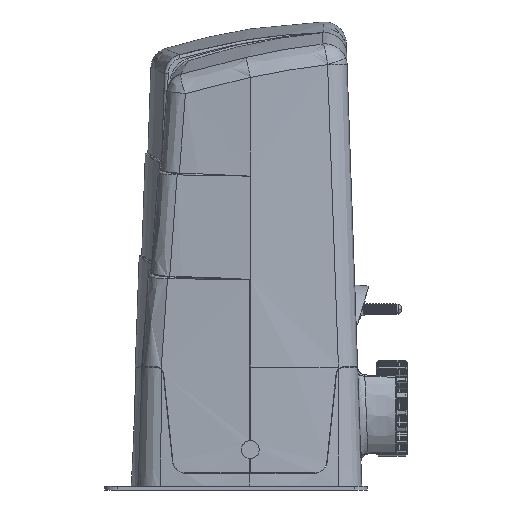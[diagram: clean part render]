
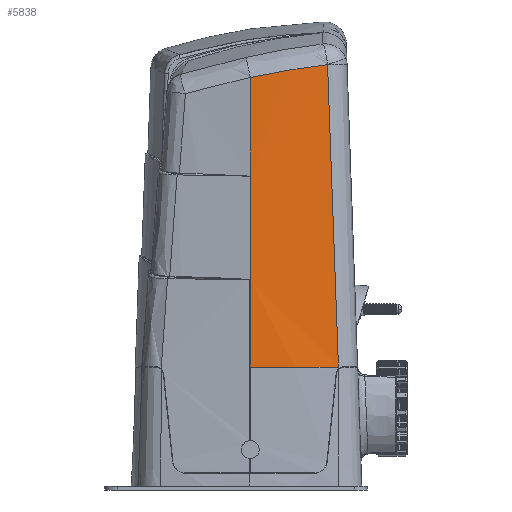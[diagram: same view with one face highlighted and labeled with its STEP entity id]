
A CAD part, left-side view. The second image highlights one B-rep face of the part: STEP entity #5838.
In plain terms, the highlighted free-form (B-spline) face has degree [3, 1] with [4, 2] control points.
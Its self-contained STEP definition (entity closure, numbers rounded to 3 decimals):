
#1874 = ORIENTED_EDGE ( 'NONE', *, *, #96683, .T. ) ;
#3341 = CARTESIAN_POINT ( 'NONE',  ( -167.37, -0.5, 161.174 ) ) ;
#5838 = ADVANCED_FACE ( 'NONE', ( #33245 ), #115562, .T. ) ;
#6348 = CARTESIAN_POINT ( 'NONE',  ( -168.163, -0.5, 138.449 ) ) ;
#6407 = B_SPLINE_CURVE_WITH_KNOTS ( 'NONE', 3,
 ( #68755, #80176, #34884, #114510 ),
 .UNSPECIFIED., .F., .F.,
 ( 4, 4 ),
 ( 0., 1. ),
 .UNSPECIFIED. ) ;
#8836 = CARTESIAN_POINT ( 'NONE',  ( -165.188, -69.272, 93. ) ) ;
#12691 = CARTESIAN_POINT ( 'NONE',  ( -164.548, -0.5, 241.966 ) ) ;
#14909 = CARTESIAN_POINT ( 'NONE',  ( -157.944, -60.785, 329.005 ) ) ;
#17321 = CARTESIAN_POINT ( 'NONE',  ( -169.75, -0.5, 93. ) ) ;
#18990 = ORIENTED_EDGE ( 'NONE', *, *, #44910, .F. ) ;
#19389 = CARTESIAN_POINT ( 'NONE',  ( -167.37, -0.5, 161.174 ) ) ;
#20312 = CARTESIAN_POINT ( 'NONE',  ( -169.75, -0.5, 93. ) ) ;
#22114 = CARTESIAN_POINT ( 'NONE',  ( -160.377, -63.615, 250.337 ) ) ;
#25765 = B_SPLINE_CURVE_WITH_KNOTS ( 'NONE', 3,
 ( #14909, #83118, #128934, #60749 ),
 .UNSPECIFIED., .F., .F.,
 ( 4, 4 ),
 ( 0., 1. ),
 .UNSPECIFIED. ) ;
#26924 = CARTESIAN_POINT ( 'NONE',  ( -169.729, -23.507, 93. ) ) ;
#28079 = EDGE_LOOP ( 'NONE', ( #1874, #141747, #70920, #104468, #18990, #122257 ) ) ;
#30837 = EDGE_CURVE ( 'NONE', #44998, #126701, #98570, .T. ) ;
#33245 = FACE_OUTER_BOUND ( 'NONE', #28079, .T. ) ;
#33582 = CARTESIAN_POINT ( 'NONE',  ( -157.944, -60.785, 329.005 ) ) ;
#34884 = CARTESIAN_POINT ( 'NONE',  ( -163.653, -0.5, 267.621 ) ) ;
#34998 = EDGE_CURVE ( 'NONE', #48711, #73875, #76136, .T. ) ;
#38386 = CARTESIAN_POINT ( 'NONE',  ( -168.206, -46.464, 93. ) ) ;
#44910 = EDGE_CURVE ( 'NONE', #146585, #44998, #123833, .T. ) ;
#44998 = VERTEX_POINT ( 'NONE', #125145 ) ;
#45009 = CARTESIAN_POINT ( 'NONE',  ( -162.791, -66.444, 171.669 ) ) ;
#47005 = B_SPLINE_CURVE_WITH_KNOTS ( 'NONE', 3,
 ( #17321, #85512, #6348, #86004 ),
 .UNSPECIFIED., .F., .F.,
 ( 4, 4 ),
 ( 0., 1. ),
 .UNSPECIFIED. ) ;
#48711 = VERTEX_POINT ( 'NONE', #19389 ) ;
#49803 = CARTESIAN_POINT ( 'NONE',  ( -165.188, -69.272, 93. ) ) ;
#53275 = EDGE_CURVE ( 'NONE', #146585, #139439, #25765, .T. ) ;
#60749 = CARTESIAN_POINT ( 'NONE',  ( -161.861, -0.5, 318.931 ) ) ;
#60774 = CARTESIAN_POINT ( 'NONE',  ( -161.509, -0.492, 329.006 ) ) ;
#65638 = CARTESIAN_POINT ( 'NONE',  ( -169.729, -23.507, 93. ) ) ;
#68755 = CARTESIAN_POINT ( 'NONE',  ( -161.861, -0.5, 318.931 ) ) ;
#70920 = ORIENTED_EDGE ( 'NONE', *, *, #110666, .F. ) ;
#71585 = CARTESIAN_POINT ( 'NONE',  ( -166.429, -0.5, 188.105 ) ) ;
#73875 = VERTEX_POINT ( 'NONE', #12691 ) ;
#76136 = B_SPLINE_CURVE_WITH_KNOTS ( 'NONE', 3,
 ( #3341, #71585, #139746, #82972 ),
 .UNSPECIFIED., .F., .F.,
 ( 4, 4 ),
 ( 0., 1. ),
 .UNSPECIFIED. ) ;
#80176 = CARTESIAN_POINT ( 'NONE',  ( -162.757, -0.5, 293.276 ) ) ;
#82972 = CARTESIAN_POINT ( 'NONE',  ( -164.548, -0.5, 241.966 ) ) ;
#83118 = CARTESIAN_POINT ( 'NONE',  ( -160.396, -40.642, 326.688 ) ) ;
#85512 = CARTESIAN_POINT ( 'NONE',  ( -168.957, -0.5, 115.725 ) ) ;
#86004 = CARTESIAN_POINT ( 'NONE',  ( -167.37, -0.5, 161.174 ) ) ;
#95131 = CARTESIAN_POINT ( 'NONE',  ( -169.75, -0.5, 93. ) ) ;
#96683 = EDGE_CURVE ( 'NONE', #139439, #73875, #6407, .T. ) ;
#98570 =( BOUNDED_CURVE ( )  B_SPLINE_CURVE ( 3, ( #8836, #145262, #65638, #20312 ),
 .UNSPECIFIED., .F., .F. ) 
 B_SPLINE_CURVE_WITH_KNOTS ( ( 4, 4 ),
 ( 0., 1. ),
 .UNSPECIFIED. ) 
 CURVE ( )  GEOMETRIC_REPRESENTATION_ITEM ( )  RATIONAL_B_SPLINE_CURVE ( ( 1., 0.999, 0.999, 1. ) ) 
 REPRESENTATION_ITEM ( '' )  );
#104468 = ORIENTED_EDGE ( 'NONE', *, *, #30837, .F. ) ;
#106559 = CARTESIAN_POINT ( 'NONE',  ( -161.488, -23.14, 329.006 ) ) ;
#110666 = EDGE_CURVE ( 'NONE', #126701, #48711, #47005, .T. ) ;
#114510 = CARTESIAN_POINT ( 'NONE',  ( -164.548, -0.5, 241.966 ) ) ;
#115562 =( BOUNDED_SURFACE ( )  B_SPLINE_SURFACE ( 3, 1, ( 
 ( #95131, #60774 ),
 ( #26924, #106559 ),
 ( #38386, #118005 ),
 ( #49803, #129454 ) ),
 .UNSPECIFIED., .F., .F., .T. ) 
 B_SPLINE_SURFACE_WITH_KNOTS ( ( 4, 4 ),
 ( 2, 2 ),
 ( 0.006, 0.972 ),
 ( 0.22, 0.778 ),
 .UNSPECIFIED. ) 
 GEOMETRIC_REPRESENTATION_ITEM ( )  RATIONAL_B_SPLINE_SURFACE ( (
 ( 1., 1.),
 ( 0.999, 0.999),
 ( 0.999, 0.999),
 ( 1., 1.) ) ) 
 REPRESENTATION_ITEM ( '' )  SURFACE ( )  );
#118005 = CARTESIAN_POINT ( 'NONE',  ( -159.988, -45.738, 329.006 ) ) ;
#122257 = ORIENTED_EDGE ( 'NONE', *, *, #53275, .T. ) ;
#123833 = B_SPLINE_CURVE_WITH_KNOTS ( 'NONE', 3,
 ( #33582, #22114, #45009, #124670 ),
 .UNSPECIFIED., .F., .F.,
 ( 4, 4 ),
 ( 0., 1. ),
 .UNSPECIFIED. ) ;
#124670 = CARTESIAN_POINT ( 'NONE',  ( -165.188, -69.272, 93. ) ) ;
#125145 = CARTESIAN_POINT ( 'NONE',  ( -165.188, -69.272, 93. ) ) ;
#126701 = VERTEX_POINT ( 'NONE', #135545 ) ;
#128934 = CARTESIAN_POINT ( 'NONE',  ( -161.688, -20.483, 323.33 ) ) ;
#129017 = CARTESIAN_POINT ( 'NONE',  ( -157.944, -60.785, 329.005 ) ) ;
#129454 = CARTESIAN_POINT ( 'NONE',  ( -157.018, -68.191, 329.006 ) ) ;
#130233 = CARTESIAN_POINT ( 'NONE',  ( -161.861, -0.5, 318.931 ) ) ;
#135545 = CARTESIAN_POINT ( 'NONE',  ( -169.75, -0.5, 93. ) ) ;
#139439 = VERTEX_POINT ( 'NONE', #130233 ) ;
#139746 = CARTESIAN_POINT ( 'NONE',  ( -165.489, -0.5, 215.035 ) ) ;
#141747 = ORIENTED_EDGE ( 'NONE', *, *, #34998, .F. ) ;
#145262 = CARTESIAN_POINT ( 'NONE',  ( -168.206, -46.464, 93. ) ) ;
#146585 = VERTEX_POINT ( 'NONE', #129017 ) ;
